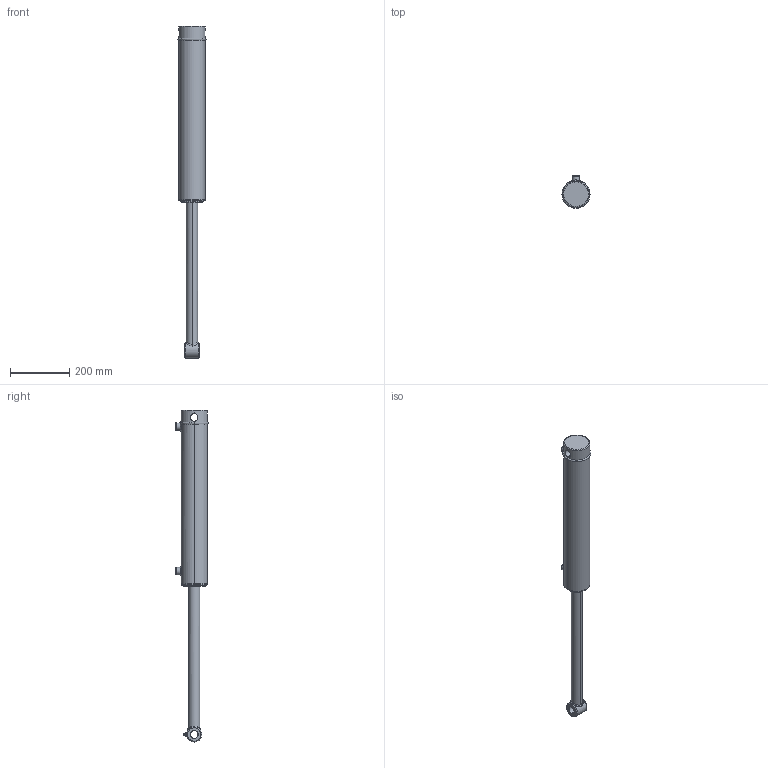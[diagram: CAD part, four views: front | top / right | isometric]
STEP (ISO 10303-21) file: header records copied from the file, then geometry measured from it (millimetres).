
FILE_DESCRIPTION (( 'STEP AP203' ), '1' );
FILE_NAME ('SB-C3001550x457 (18) extended.STEP', '2014-11-19T21:32:27', ( '' ), ( '' ), 'SwSTEP 2.0', 'SolidWorks 2014', '' );
FILE_SCHEMA (( 'CONFIG_CONTROL_DESIGN' ));
Length unit declared in the file: millimetre
Products named in the file (7): SPARE 18; SB-C300150x457 (18) BODY; 3 inch circlip; SB-C3001550x457 (18) body; 18 SPARE; SB-C3001550x457 (18) extended; 18 NPT GREASE NIPPLE
Assembly tree (6 placements, depth 3):
  SB-C3001550x457 (18) extended
    SB-C3001550x457 (18) body
      SB-C300150x457 (18) BODY
      3 inch circlip
    SPARE 18
      18 SPARE
      18 NPT GREASE NIPPLE
Bounding box: 94.9 x 109.9 x 1122.4 mm (x, y, z)
Volume: 4061590.2 mm3; surface area: 305381.7 mm2
Topology: 4 solids, 4 shells, 133 faces, 306 edges, 190 vertices
Faces by surface type: cylinder 51, plane 29, cone 22, bspline 18, torus 11, sphere 2
Entity records: 10452 total; most frequent: CARTESIAN_POINT 6772, DIRECTION 638, ORIENTED_EDGE 604, EDGE_CURVE 302, AXIS2_PLACEMENT_3D 270, VERTEX_POINT 190, EDGE_LOOP 158, CIRCLE 144
